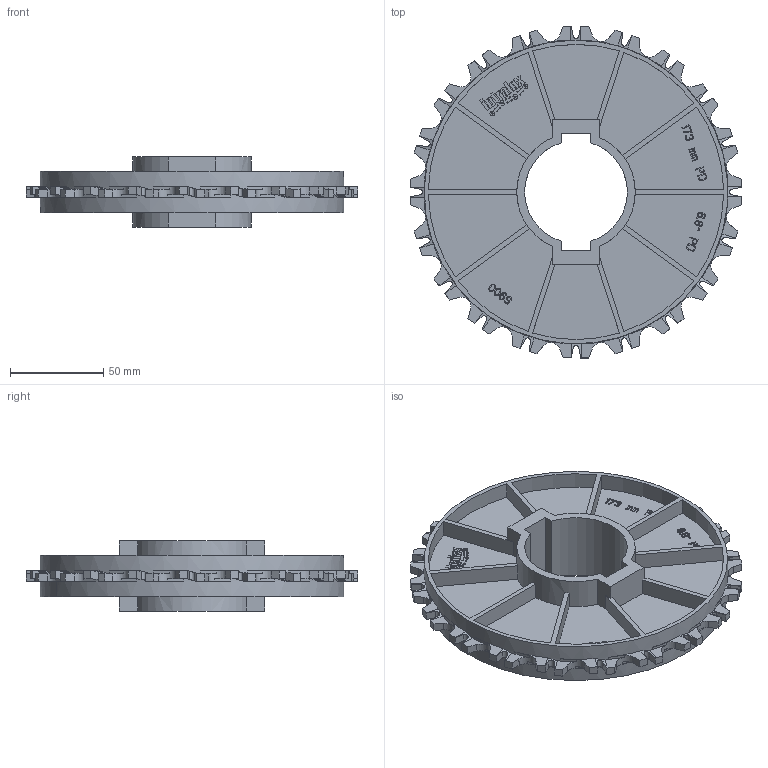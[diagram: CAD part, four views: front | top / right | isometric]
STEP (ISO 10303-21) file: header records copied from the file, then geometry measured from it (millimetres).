
FILE_DESCRIPTION((''),'2;1');
FILE_NAME('S900_SPROCKET_68X1-15_16_PILOT','2008-12-12T',('jmumphre'),(''),'PRO/ENGINEER BY PARAMETRIC TECHNOLOGY CORPORATION, 2008150','PRO/ENGINEER BY PARAMETRIC TECHNOLOGY CORPORATION, 2008150','');
FILE_SCHEMA(('CONFIG_CONTROL_DESIGN'));
Length unit declared in the file: inch
Products named in the file (1): S900_SPROCKET_68X1-15_16_PILOT
Bounding box: 177.86 x 177.86 x 37.59 mm (x, y, z)
Volume: 168224.1 mm3; surface area: 92752.7 mm2
Topology: 1 solids, 1 shells, 1263 faces, 3725 edges, 2510 vertices
Faces by surface type: plane 1103, cylinder 160
Entity records: 42612 total; most frequent: CARTESIAN_POINT 8715, ORIENTED_EDGE 7450, DIRECTION 6467, EDGE_CURVE 3725, VECTOR 3181, LINE 3181, VERTEX_POINT 2510, AXIS2_PLACEMENT_3D 1643
